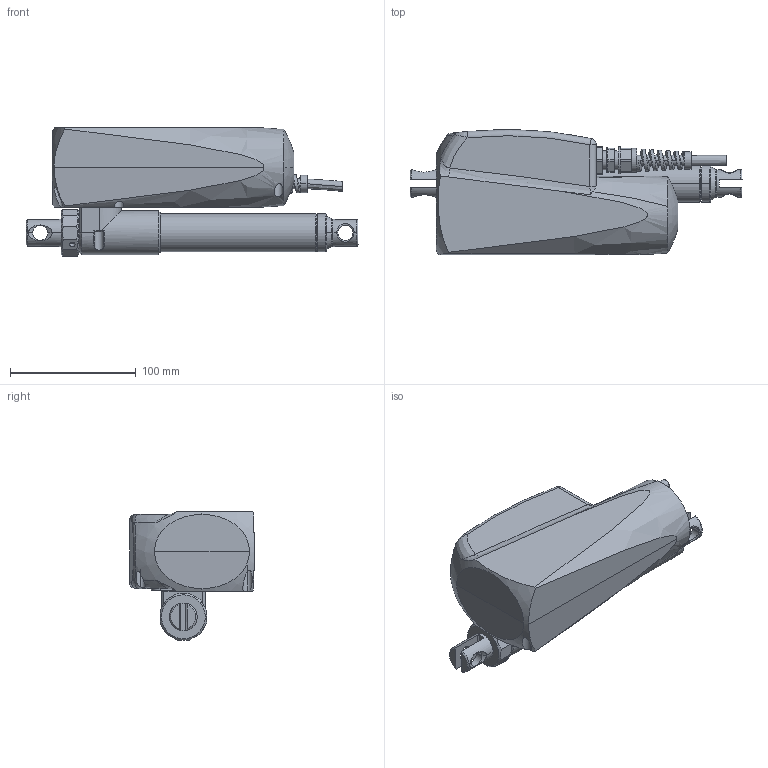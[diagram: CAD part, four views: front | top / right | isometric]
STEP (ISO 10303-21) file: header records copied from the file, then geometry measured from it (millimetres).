
FILE_DESCRIPTION((''),'2;1');
FILE_NAME('MD57-A_ASM','2016-04-19T',('hank'),(''),'PRO/ENGINEER BY PARAMETRIC TECHNOLOGY CORPORATION, 2014200','PRO/ENGINEER BY PARAMETRIC TECHNOLOGY CORPORATION, 2014200','');
FILE_SCHEMA(('CONFIG_CONTROL_DESIGN'));
Length unit declared in the file: millimetre
Products named in the file (3): MD57-SHELL; INNERTUBE; MD57-A_ASM
Assembly tree (2 placements, depth 2):
  MD57-A_ASM
    MD57-SHELL
    INNERTUBE
Bounding box: 264.3 x 99.49 x 102 mm (x, y, z)
Volume: 953968.3 mm3; surface area: 146935 mm2
Topology: 2 solids, 10 shells, 429 faces, 1069 edges, 686 vertices
Faces by surface type: plane 187, cylinder 157, cone 43, bspline 26, torus 12, sphere 2, extrusion 2
Entity records: 18682 total; most frequent: CARTESIAN_POINT 8465, ORIENTED_EDGE 2138, DIRECTION 2100, EDGE_CURVE 1069, AXIS2_PLACEMENT_3D 827, VERTEX_POINT 686, EDGE_LOOP 473, VECTOR 446
